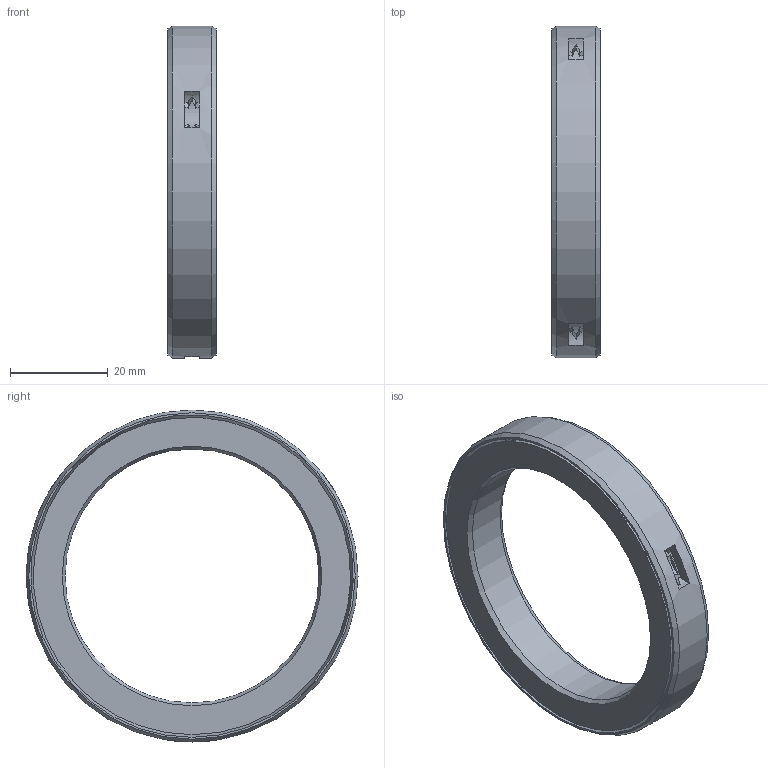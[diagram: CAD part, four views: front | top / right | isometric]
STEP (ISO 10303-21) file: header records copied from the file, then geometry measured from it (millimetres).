
FILE_DESCRIPTION(/* description */ (''),/* implementation_level */ '2;1');
FILE_NAME(/* name */ '301376 M 52x68x10.stp',/* time_stamp */ '2016-12-15T11:36:51+01:00',/* author */ (''),/* organization */ (''),/* preprocessor_version */ 'ST-DEVELOPER v15',/* originating_system */ 'SIEMENS PLM Software NX 8.5',/* authorisation */ '');
FILE_SCHEMA (('CONFIG_CONTROL_DESIGN'));
Length unit declared in the file: millimetre
Products named in the file (1): ATE0000124_01
Bounding box: 10 x 68 x 68 mm (x, y, z)
Volume: 13515.1 mm3; surface area: 10956.4 mm2
Topology: 2 solids, 2 shells, 49 faces, 143 edges, 94 vertices
Faces by surface type: cone 22, plane 16, cylinder 11
Full cylindrical faces by diameter (mm): 52 x1, 68 x1
Entity records: 1626 total; most frequent: CARTESIAN_POINT 396, ORIENTED_EDGE 240, DIRECTION 234, EDGE_CURVE 120, AXIS2_PLACEMENT_3D 114, VERTEX_POINT 84, CIRCLE 66, EDGE_LOOP 64
